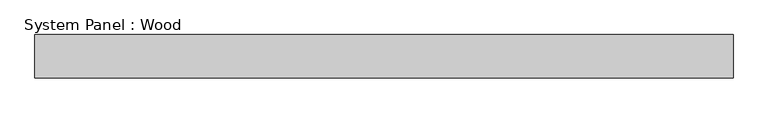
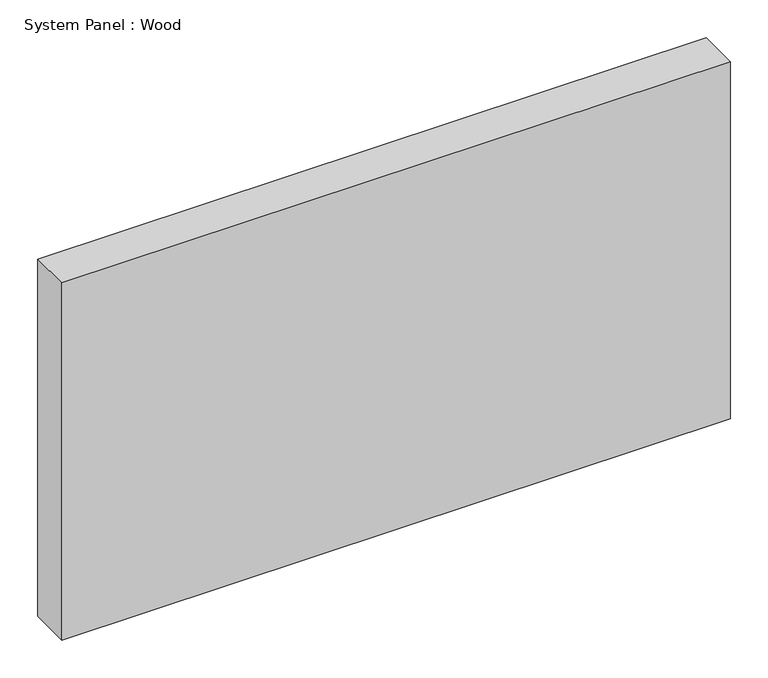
"""IFC4 building model written with IfcOpenShell, lengths in millimetres: plate geometry, System Panel : Wood."""

from ifc_helpers import new_model, si_unit, origin, origin_with_axes, place, context, project, spatial, polyline, outline, extrude, source, transform, mapped, element, save


def system_panel_wood_62f12f2f(model_context):
    return source(origin(), model_context, "Body", "SweptSolid", [
        extrude(outline(polyline([(511.4925, -44.45), (-511.4925, -44.45), (-511.4925, 19.05), (511.4925, 19.05), (511.4925, -44.45)])), origin_with_axes(), (0.0, 0.0, 1.0), 577.85),
    ])


if __name__ == "__main__":
    model = new_model("IFC4")
    model_context = context("Model", 3, world=origin())
    ifc_project = project(units=[si_unit("LENGTHUNIT", "METRE", prefix="MILLI")], contexts=[model_context])
    site = spatial("IfcSite", under=ifc_project)
    building = spatial("IfcBuilding", under=site)
    placement = place(None, origin())
    system_panel_wood_shape = system_panel_wood_62f12f2f(model_context)
    element("IfcPlate", 1, ObjectType="System Panel : Wood", at=placement, inside=building, context=model_context, shape_type="MappedRepresentation", body=[
        mapped(system_panel_wood_shape, transform((0.0, 0.0, 0.0), x_axis=(1.0, 0.0, 0.0), y_axis=(0.0, 1.0, 0.0), z_axis=(0.0, 0.0, 1.0))),
    ])
    save(model, "model.ifc")
